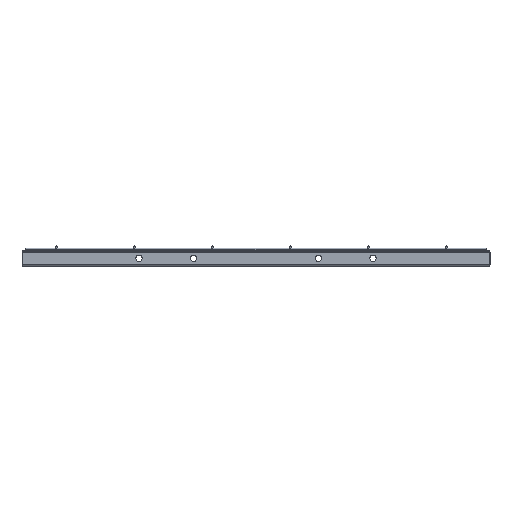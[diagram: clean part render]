
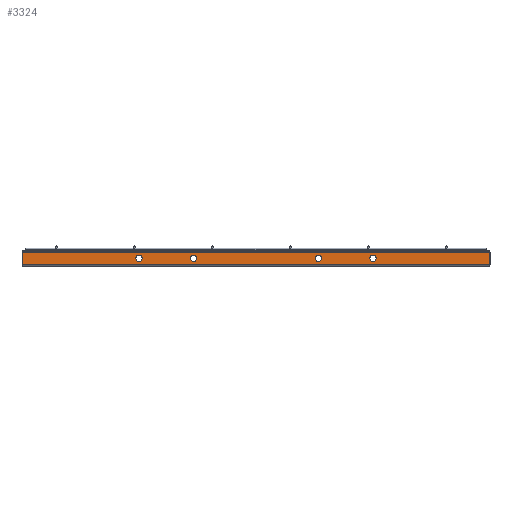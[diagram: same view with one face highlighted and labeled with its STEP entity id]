
A CAD part, left-side view. The second image highlights one B-rep face of the part: STEP entity #3324.
In plain terms, the highlighted planar face has unit normal (-1, 0, 0).
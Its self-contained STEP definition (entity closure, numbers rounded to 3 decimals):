
#12 = EDGE_LOOP ( 'NONE', ( #1494, #6184, #1487, #7848 ) ) ;
#30 = DIRECTION ( 'NONE',  ( 0., 0., -1. ) ) ;
#139 = VERTEX_POINT ( 'NONE', #5156 ) ;
#184 = CARTESIAN_POINT ( 'NONE',  ( -600., 150., 4. ) ) ;
#201 = ORIENTED_EDGE ( 'NONE', *, *, #798, .T. ) ;
#221 = CARTESIAN_POINT ( 'NONE',  ( -600., -80., 0. ) ) ;
#261 = AXIS2_PLACEMENT_3D ( 'NONE', #7538, #8192, #7624 ) ;
#468 = VECTOR ( 'NONE', #2465, 1000. ) ;
#564 = VERTEX_POINT ( 'NONE', #8762 ) ;
#638 = CARTESIAN_POINT ( 'NONE',  ( -600., -150., 0. ) ) ;
#672 = EDGE_CURVE ( 'NONE', #8563, #6161, #1027, .T. ) ;
#717 = VERTEX_POINT ( 'NONE', #6267 ) ;
#768 = EDGE_CURVE ( 'NONE', #717, #5044, #831, .T. ) ;
#798 = EDGE_CURVE ( 'NONE', #6210, #7985, #7450, .T. ) ;
#831 = LINE ( 'NONE', #4299, #5372 ) ;
#880 = CIRCLE ( 'NONE', #7215, 4. ) ;
#1027 = CIRCLE ( 'NONE', #7810, 4. ) ;
#1070 = DIRECTION ( 'NONE',  ( 0., 0., -1. ) ) ;
#1200 = CARTESIAN_POINT ( 'NONE',  ( -600., -300., -8. ) ) ;
#1240 = CARTESIAN_POINT ( 'NONE',  ( -600., -300., -8. ) ) ;
#1289 = AXIS2_PLACEMENT_3D ( 'NONE', #3902, #1665, #1766 ) ;
#1292 = LINE ( 'NONE', #8814, #468 ) ;
#1323 = VERTEX_POINT ( 'NONE', #7983 ) ;
#1391 = DIRECTION ( 'NONE',  ( 0., 0., 1. ) ) ;
#1417 = CARTESIAN_POINT ( 'NONE',  ( -600., 80., 0. ) ) ;
#1487 = ORIENTED_EDGE ( 'NONE', *, *, #768, .F. ) ;
#1494 = ORIENTED_EDGE ( 'NONE', *, *, #5444, .F. ) ;
#1659 = DIRECTION ( 'NONE',  ( 1., 0., 0. ) ) ;
#1665 = DIRECTION ( 'NONE',  ( 1., 0., 0. ) ) ;
#1721 = VECTOR ( 'NONE', #3990, 1000. ) ;
#1766 = DIRECTION ( 'NONE',  ( 0., 0., -1. ) ) ;
#1896 = PLANE ( 'NONE',  #5118 ) ;
#2080 = ORIENTED_EDGE ( 'NONE', *, *, #9037, .T. ) ;
#2336 = CARTESIAN_POINT ( 'NONE',  ( -600., 300., 8. ) ) ;
#2421 = CARTESIAN_POINT ( 'NONE',  ( -600., -150., 0. ) ) ;
#2465 = DIRECTION ( 'NONE',  ( 0., 1., 0. ) ) ;
#2470 = VECTOR ( 'NONE', #1391, 1000. ) ;
#2585 = FACE_BOUND ( 'NONE', #8606, .T. ) ;
#2611 = VERTEX_POINT ( 'NONE', #184 ) ;
#2637 = ORIENTED_EDGE ( 'NONE', *, *, #4540, .T. ) ;
#2714 = DIRECTION ( 'NONE',  ( 0., 0., -1. ) ) ;
#2766 = CIRCLE ( 'NONE', #3069, 4. ) ;
#3015 = CARTESIAN_POINT ( 'NONE',  ( -600., -300., -8. ) ) ;
#3018 = DIRECTION ( 'NONE',  ( 1., 0., 0. ) ) ;
#3069 = AXIS2_PLACEMENT_3D ( 'NONE', #2421, #3018, #4459 ) ;
#3190 = EDGE_CURVE ( 'NONE', #7985, #6210, #5998, .T. ) ;
#3195 = AXIS2_PLACEMENT_3D ( 'NONE', #221, #1659, #1070 ) ;
#3319 = AXIS2_PLACEMENT_3D ( 'NONE', #9156, #7710, #30 ) ;
#3324 = ADVANCED_FACE ( 'NONE', ( #5485, #3942, #7614, #2585, #5398 ), #1896, .F. ) ;
#3341 = EDGE_CURVE ( 'NONE', #5044, #139, #8892, .T. ) ;
#3577 = CARTESIAN_POINT ( 'NONE',  ( -600., 150., 0. ) ) ;
#3626 = DIRECTION ( 'NONE',  ( 0., 0., -1. ) ) ;
#3655 = DIRECTION ( 'NONE',  ( 0., 0., -1. ) ) ;
#3687 = CARTESIAN_POINT ( 'NONE',  ( -600., -80., 4. ) ) ;
#3902 = CARTESIAN_POINT ( 'NONE',  ( -600., 80., 0. ) ) ;
#3942 = FACE_BOUND ( 'NONE', #7668, .T. ) ;
#3990 = DIRECTION ( 'NONE',  ( 0., 1., 0. ) ) ;
#4025 = DIRECTION ( 'NONE',  ( 0., 1., 0. ) ) ;
#4181 = ORIENTED_EDGE ( 'NONE', *, *, #8371, .T. ) ;
#4299 = CARTESIAN_POINT ( 'NONE',  ( -600., -300., -8. ) ) ;
#4330 = CARTESIAN_POINT ( 'NONE',  ( -600., -80., -4. ) ) ;
#4459 = DIRECTION ( 'NONE',  ( 0., 0., -1. ) ) ;
#4540 = EDGE_CURVE ( 'NONE', #1323, #564, #880, .T. ) ;
#4760 = CARTESIAN_POINT ( 'NONE',  ( -600., -150., -4. ) ) ;
#4764 = CIRCLE ( 'NONE', #6228, 4. ) ;
#4837 = ORIENTED_EDGE ( 'NONE', *, *, #5686, .T. ) ;
#5044 = VERTEX_POINT ( 'NONE', #3015 ) ;
#5118 = AXIS2_PLACEMENT_3D ( 'NONE', #1200, #6136, #4025 ) ;
#5149 = VERTEX_POINT ( 'NONE', #8067 ) ;
#5156 = CARTESIAN_POINT ( 'NONE',  ( -600., 300., -8. ) ) ;
#5372 = VECTOR ( 'NONE', #3655, 1000. ) ;
#5398 = FACE_OUTER_BOUND ( 'NONE', #12, .T. ) ;
#5444 = EDGE_CURVE ( 'NONE', #139, #6219, #5773, .T. ) ;
#5445 = DIRECTION ( 'NONE',  ( 0., 0., -1. ) ) ;
#5449 = DIRECTION ( 'NONE',  ( 1., 0., 0. ) ) ;
#5485 = FACE_BOUND ( 'NONE', #6163, .T. ) ;
#5493 = EDGE_CURVE ( 'NONE', #564, #1323, #7944, .T. ) ;
#5497 = ORIENTED_EDGE ( 'NONE', *, *, #5493, .T. ) ;
#5686 = EDGE_CURVE ( 'NONE', #2611, #5149, #9125, .T. ) ;
#5773 = LINE ( 'NONE', #7118, #2470 ) ;
#5778 = DIRECTION ( 'NONE',  ( 1., 0., 0. ) ) ;
#5998 = CIRCLE ( 'NONE', #3195, 4. ) ;
#6136 = DIRECTION ( 'NONE',  ( 1., 0., 0. ) ) ;
#6161 = VERTEX_POINT ( 'NONE', #8590 ) ;
#6163 = EDGE_LOOP ( 'NONE', ( #4181, #4837 ) ) ;
#6184 = ORIENTED_EDGE ( 'NONE', *, *, #3341, .F. ) ;
#6210 = VERTEX_POINT ( 'NONE', #3687 ) ;
#6219 = VERTEX_POINT ( 'NONE', #2336 ) ;
#6228 = AXIS2_PLACEMENT_3D ( 'NONE', #3577, #5778, #3626 ) ;
#6267 = CARTESIAN_POINT ( 'NONE',  ( -600., -300., 8. ) ) ;
#7118 = CARTESIAN_POINT ( 'NONE',  ( -600., 300., -8. ) ) ;
#7215 = AXIS2_PLACEMENT_3D ( 'NONE', #1417, #9020, #5445 ) ;
#7450 = CIRCLE ( 'NONE', #3319, 4. ) ;
#7538 = CARTESIAN_POINT ( 'NONE',  ( -600., 150., 0. ) ) ;
#7614 = FACE_BOUND ( 'NONE', #8089, .T. ) ;
#7624 = DIRECTION ( 'NONE',  ( 0., 0., -1. ) ) ;
#7668 = EDGE_LOOP ( 'NONE', ( #2637, #5497 ) ) ;
#7710 = DIRECTION ( 'NONE',  ( 1., 0., 0. ) ) ;
#7810 = AXIS2_PLACEMENT_3D ( 'NONE', #638, #5449, #2714 ) ;
#7848 = ORIENTED_EDGE ( 'NONE', *, *, #8575, .T. ) ;
#7944 = CIRCLE ( 'NONE', #1289, 4. ) ;
#7983 = CARTESIAN_POINT ( 'NONE',  ( -600., 80., -4. ) ) ;
#7985 = VERTEX_POINT ( 'NONE', #4330 ) ;
#7996 = ORIENTED_EDGE ( 'NONE', *, *, #3190, .T. ) ;
#8067 = CARTESIAN_POINT ( 'NONE',  ( -600., 150., -4. ) ) ;
#8089 = EDGE_LOOP ( 'NONE', ( #7996, #201 ) ) ;
#8192 = DIRECTION ( 'NONE',  ( 1., 0., 0. ) ) ;
#8371 = EDGE_CURVE ( 'NONE', #5149, #2611, #4764, .T. ) ;
#8563 = VERTEX_POINT ( 'NONE', #4760 ) ;
#8575 = EDGE_CURVE ( 'NONE', #717, #6219, #1292, .T. ) ;
#8590 = CARTESIAN_POINT ( 'NONE',  ( -600., -150., 4. ) ) ;
#8606 = EDGE_LOOP ( 'NONE', ( #8816, #2080 ) ) ;
#8762 = CARTESIAN_POINT ( 'NONE',  ( -600., 80., 4. ) ) ;
#8814 = CARTESIAN_POINT ( 'NONE',  ( -600., -300., 8. ) ) ;
#8816 = ORIENTED_EDGE ( 'NONE', *, *, #672, .T. ) ;
#8892 = LINE ( 'NONE', #1240, #1721 ) ;
#9020 = DIRECTION ( 'NONE',  ( 1., 0., 0. ) ) ;
#9037 = EDGE_CURVE ( 'NONE', #6161, #8563, #2766, .T. ) ;
#9125 = CIRCLE ( 'NONE', #261, 4. ) ;
#9156 = CARTESIAN_POINT ( 'NONE',  ( -600., -80., 0. ) ) ;
